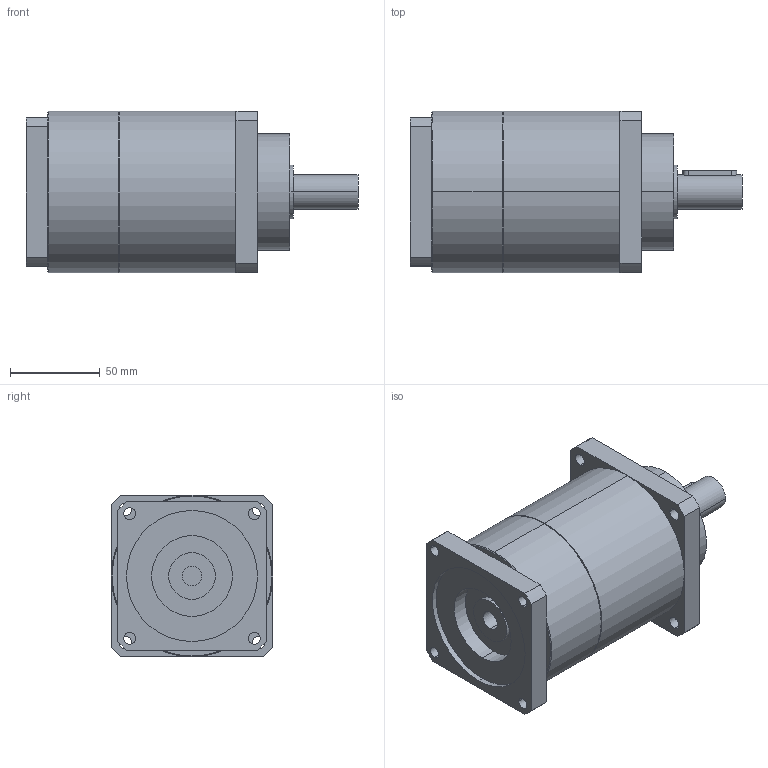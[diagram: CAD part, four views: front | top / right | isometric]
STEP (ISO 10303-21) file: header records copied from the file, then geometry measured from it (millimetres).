
FILE_DESCRIPTION(('CoCreate Modeling STEP Export'),'2;1');
FILE_NAME('GPT90_ig-9-12-16-20-25-28-35-40-50-70-100_19_B5T_11_P05.stp','2015-02-04T11:24:02',(''),(''),'CoCreate Modeling STEP processor for AP214 (Solid Model)','CoCreate Modeling 16.00C 25-Feb-2009 (C) Parametric Technology GmbH','');
FILE_SCHEMA(('AUTOMOTIVE_DESIGN { 1 0 10303 214 1 1 1 1 }'));
Length unit declared in the file: millimetre
Products named in the file (2): GPT90_ig-9-12-16-20-25-28-35-40-50-70-100_19_B5T_11_P05
Assembly tree (1 placements, depth 2):
  GPT90_ig-9-12-16-20-25-28-35-40-50-70-100_19_B5T_11_P05
    GPT90_ig-9-12-16-20-25-28-35-40-50-70-100_19_B5T_11_P05
Bounding box: 185 x 90 x 90 mm (x, y, z)
Volume: 884895.4 mm3; surface area: 66935.4 mm2
Topology: 1 solids, 1 shells, 84 faces, 221 edges, 148 vertices
Faces by surface type: cylinder 46, plane 34, cone 4
Entity records: 2695 total; most frequent: CARTESIAN_POINT 754, ORIENTED_EDGE 442, DIRECTION 330, EDGE_CURVE 221, VERTEX_POINT 148, AXIS2_PLACEMENT_3D 121, EDGE_LOOP 109, VECTOR 88
